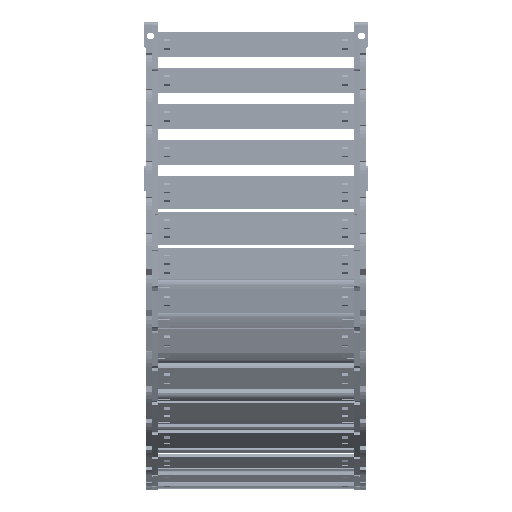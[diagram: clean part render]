
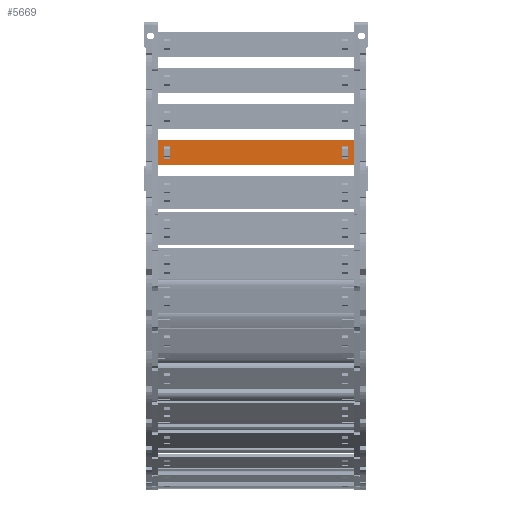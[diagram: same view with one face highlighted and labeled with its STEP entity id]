
A CAD part, left-side view. The second image highlights one B-rep face of the part: STEP entity #5669.
In plain terms, the highlighted planar face has unit normal (-1, 0, 0) as drawn and (0, 1, 0) by its records, which use the part's own axes.
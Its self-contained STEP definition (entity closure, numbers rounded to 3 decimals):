
#5089=DIRECTION('',(0.,0.,1.));
#5090=VECTOR('',#5089,15.8);
#5091=CARTESIAN_POINT('',(110.74,1.5,-7.9));
#5092=LINE('',#5091,#5090);
#5093=DIRECTION('',(-1.,0.,0.));
#5094=VECTOR('',#5093,125.5);
#5095=CARTESIAN_POINT('',(110.74,1.5,7.9));
#5096=LINE('',#5095,#5094);
#5097=DIRECTION('',(0.,0.,-1.));
#5098=VECTOR('',#5097,15.8);
#5099=CARTESIAN_POINT('',(-14.76,1.5,7.9));
#5100=LINE('',#5099,#5098);
#5101=DIRECTION('',(1.,0.,0.));
#5102=VECTOR('',#5101,3.648);
#5103=CARTESIAN_POINT('',(103.122,1.5,4.075));
#5104=LINE('',#5103,#5102);
#5105=DIRECTION('',(0.,0.,-1.));
#5106=VECTOR('',#5105,8.15);
#5107=CARTESIAN_POINT('',(106.77,1.5,4.075));
#5108=LINE('',#5107,#5106);
#5109=DIRECTION('',(-1.,0.,0.));
#5110=VECTOR('',#5109,3.648);
#5111=CARTESIAN_POINT('',(106.77,1.5,-4.075));
#5112=LINE('',#5111,#5110);
#5113=DIRECTION('',(0.,0.,-1.));
#5114=VECTOR('',#5113,8.15);
#5115=CARTESIAN_POINT('',(-7.142,1.5,4.075));
#5116=LINE('',#5115,#5114);
#5117=DIRECTION('',(-1.,0.,0.));
#5118=VECTOR('',#5117,3.648);
#5119=CARTESIAN_POINT('',(-7.142,1.5,-4.075));
#5120=LINE('',#5119,#5118);
#5121=DIRECTION('',(0.,0.,1.));
#5122=VECTOR('',#5121,8.15);
#5123=CARTESIAN_POINT('',(-10.79,1.5,-4.075));
#5124=LINE('',#5123,#5122);
#5125=DIRECTION('',(1.,0.,0.));
#5126=VECTOR('',#5125,3.648);
#5127=CARTESIAN_POINT('',(-10.79,1.5,4.075));
#5128=LINE('',#5127,#5126);
#5133=DIRECTION('',(-1.,0.,0.));
#5134=VECTOR('',#5133,125.5);
#5135=CARTESIAN_POINT('',(110.74,1.5,-7.9));
#5136=LINE('',#5135,#5134);
#5254=DIRECTION('',(0.,0.,-1.));
#5255=VECTOR('',#5254,8.15);
#5256=CARTESIAN_POINT('',(103.122,1.5,4.075));
#5257=LINE('',#5256,#5255);
#5439=CARTESIAN_POINT('',(106.77,1.5,4.075));
#5440=VERTEX_POINT('',#5439);
#5441=CARTESIAN_POINT('',(103.122,1.5,4.075));
#5442=VERTEX_POINT('',#5441);
#5483=CARTESIAN_POINT('',(103.122,1.5,-4.075));
#5484=VERTEX_POINT('',#5483);
#5485=CARTESIAN_POINT('',(106.77,1.5,-4.075));
#5486=VERTEX_POINT('',#5485);
#5487=CARTESIAN_POINT('',(110.74,1.5,7.9));
#5489=VERTEX_POINT('',#5487);
#5491=CARTESIAN_POINT('',(110.74,1.5,-7.9));
#5492=VERTEX_POINT('',#5491);
#5515=CARTESIAN_POINT('',(-7.142,1.5,4.075));
#5516=CARTESIAN_POINT('',(-7.142,1.5,-4.075));
#5517=VERTEX_POINT('',#5515);
#5518=VERTEX_POINT('',#5516);
#5519=CARTESIAN_POINT('',(-10.79,1.5,-4.075));
#5520=VERTEX_POINT('',#5519);
#5521=CARTESIAN_POINT('',(-10.79,1.5,4.075));
#5522=VERTEX_POINT('',#5521);
#5523=CARTESIAN_POINT('',(-14.76,1.5,7.9));
#5524=VERTEX_POINT('',#5523);
#5527=CARTESIAN_POINT('',(-14.76,1.5,-7.9));
#5528=VERTEX_POINT('',#5527);
#5638=CARTESIAN_POINT('',(142.48,1.5,10.061));
#5639=DIRECTION('',(0.,-1.,0.));
#5640=DIRECTION('',(0.,0.,-1.));
#5641=AXIS2_PLACEMENT_3D('',#5638,#5639,#5640);
#5642=PLANE('',#5641);
#5643=ORIENTED_EDGE('',*,*,#5577,.T.);
#5644=ORIENTED_EDGE('',*,*,#5603,.T.);
#5645=ORIENTED_EDGE('',*,*,#5616,.T.);
#5647=ORIENTED_EDGE('',*,*,#5646,.F.);
#5648=EDGE_LOOP('',(#5643,#5644,#5645,#5647));
#5649=FACE_OUTER_BOUND('',#5648,.F.);
#5651=ORIENTED_EDGE('',*,*,#5650,.F.);
#5652=ORIENTED_EDGE('',*,*,#5540,.T.);
#5654=ORIENTED_EDGE('',*,*,#5653,.T.);
#5656=ORIENTED_EDGE('',*,*,#5655,.T.);
#5657=EDGE_LOOP('',(#5651,#5652,#5654,#5656));
#5658=FACE_BOUND('',#5657,.F.);
#5660=ORIENTED_EDGE('',*,*,#5659,.T.);
#5662=ORIENTED_EDGE('',*,*,#5661,.T.);
#5664=ORIENTED_EDGE('',*,*,#5663,.T.);
#5666=ORIENTED_EDGE('',*,*,#5665,.T.);
#5667=EDGE_LOOP('',(#5660,#5662,#5664,#5666));
#5668=FACE_BOUND('',#5667,.F.);
#5669=ADVANCED_FACE('',(#5649,#5658,#5668),#5642,.F.);
#5540=EDGE_CURVE('',#5442,#5440,#5104,.T.);
#5577=EDGE_CURVE('',#5492,#5489,#5092,.T.);
#5603=EDGE_CURVE('',#5489,#5524,#5096,.T.);
#5616=EDGE_CURVE('',#5524,#5528,#5100,.T.);
#5646=EDGE_CURVE('',#5492,#5528,#5136,.T.);
#5650=EDGE_CURVE('',#5442,#5484,#5257,.T.);
#5653=EDGE_CURVE('',#5440,#5486,#5108,.T.);
#5655=EDGE_CURVE('',#5486,#5484,#5112,.T.);
#5659=EDGE_CURVE('',#5517,#5518,#5116,.T.);
#5661=EDGE_CURVE('',#5518,#5520,#5120,.T.);
#5663=EDGE_CURVE('',#5520,#5522,#5124,.T.);
#5665=EDGE_CURVE('',#5522,#5517,#5128,.T.);
